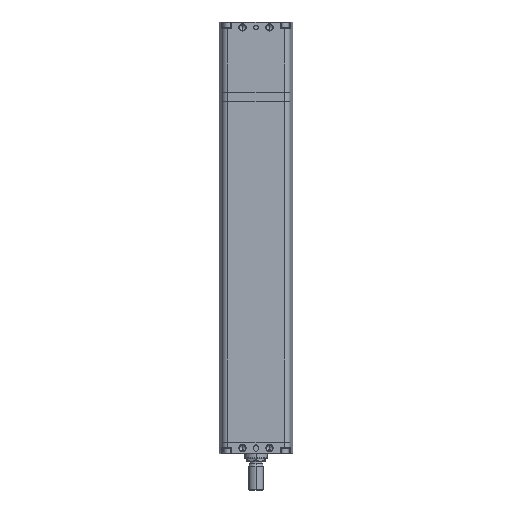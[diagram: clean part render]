
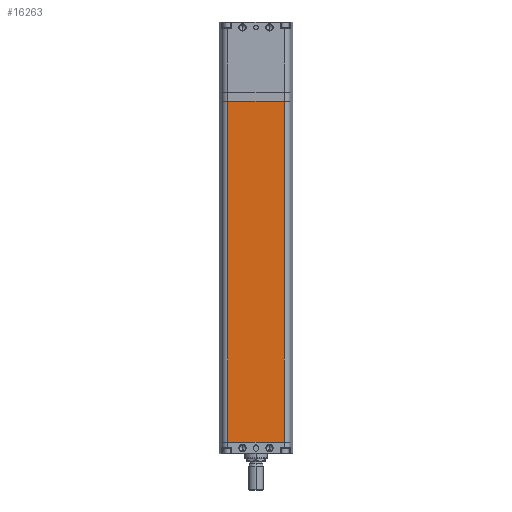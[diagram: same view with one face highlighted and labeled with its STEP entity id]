
A CAD part, front view. The second image highlights one B-rep face of the part: STEP entity #16263.
In plain terms, the highlighted planar face has unit normal (0, -1, 0).
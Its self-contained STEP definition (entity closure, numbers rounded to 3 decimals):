
#161 = CARTESIAN_POINT ( 'NONE',  ( -41., -41., -73. ) ) ;
#283 = DIRECTION ( 'NONE',  ( 1., 0., 0. ) ) ;
#494 = ORIENTED_EDGE ( 'NONE', *, *, #21454, .F. ) ;
#1192 = LINE ( 'NONE', #10853, #8516 ) ;
#1711 = LINE ( 'NONE', #7354, #23659 ) ;
#2000 = LINE ( 'NONE', #161, #5854 ) ;
#2119 = LINE ( 'NONE', #12906, #5760 ) ;
#3593 = ORIENTED_EDGE ( 'NONE', *, *, #14401, .T. ) ;
#4419 = DIRECTION ( 'NONE',  ( 0., 0., -1. ) ) ;
#4631 = EDGE_CURVE ( 'NONE', #20868, #20363, #1711, .T. ) ;
#4999 = DIRECTION ( 'NONE',  ( 0., 0., -1. ) ) ;
#5528 = DIRECTION ( 'NONE',  ( 0., 0., 1. ) ) ;
#5760 = VECTOR ( 'NONE', #283, 1000. ) ;
#5854 = VECTOR ( 'NONE', #15075, 1000. ) ;
#6251 = FACE_OUTER_BOUND ( 'NONE', #20205, .T. ) ;
#7354 = CARTESIAN_POINT ( 'NONE',  ( 31.138, -41., -1073. ) ) ;
#7858 = DIRECTION ( 'NONE',  ( 0., -1., 0. ) ) ;
#8080 = CARTESIAN_POINT ( 'NONE',  ( -41., -41., -1073. ) ) ;
#8516 = VECTOR ( 'NONE', #4999, 1000. ) ;
#8583 = AXIS2_PLACEMENT_3D ( 'NONE', #8080, #7858, #4419 ) ;
#8684 = VERTEX_POINT ( 'NONE', #15785 ) ;
#10853 = CARTESIAN_POINT ( 'NONE',  ( -31.138, -41., -1073. ) ) ;
#10893 = ORIENTED_EDGE ( 'NONE', *, *, #23729, .T. ) ;
#12906 = CARTESIAN_POINT ( 'NONE',  ( -41., -41., -451. ) ) ;
#13645 = ORIENTED_EDGE ( 'NONE', *, *, #4631, .T. ) ;
#14401 = EDGE_CURVE ( 'NONE', #14424, #20868, #2119, .T. ) ;
#14424 = VERTEX_POINT ( 'NONE', #24150 ) ;
#15075 = DIRECTION ( 'NONE',  ( 1., 0., 0. ) ) ;
#15785 = CARTESIAN_POINT ( 'NONE',  ( -31.138, -41., -73. ) ) ;
#16263 = ADVANCED_FACE ( 'NONE', ( #6251 ), #21156, .T. ) ;
#17362 = CARTESIAN_POINT ( 'NONE',  ( 31.138, -41., -73. ) ) ;
#20205 = EDGE_LOOP ( 'NONE', ( #10893, #3593, #13645, #494 ) ) ;
#20363 = VERTEX_POINT ( 'NONE', #17362 ) ;
#20868 = VERTEX_POINT ( 'NONE', #24024 ) ;
#21156 = PLANE ( 'NONE',  #8583 ) ;
#21454 = EDGE_CURVE ( 'NONE', #8684, #20363, #2000, .T. ) ;
#23659 = VECTOR ( 'NONE', #5528, 1000. ) ;
#23729 = EDGE_CURVE ( 'NONE', #8684, #14424, #1192, .T. ) ;
#24024 = CARTESIAN_POINT ( 'NONE',  ( 31.138, -41., -451. ) ) ;
#24150 = CARTESIAN_POINT ( 'NONE',  ( -31.138, -41., -451. ) ) ;
